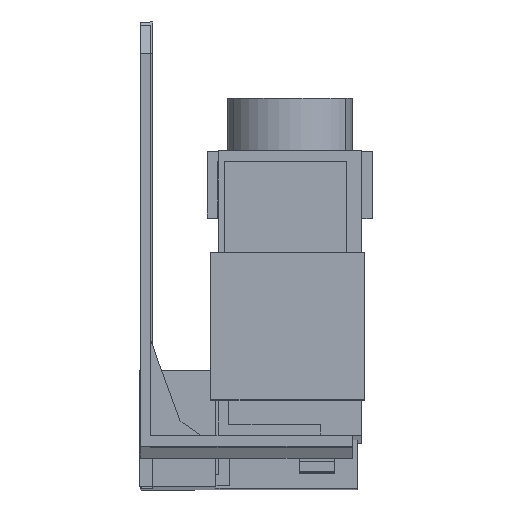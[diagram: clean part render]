
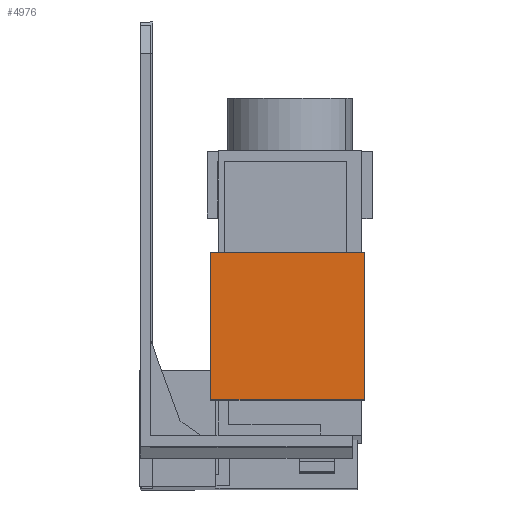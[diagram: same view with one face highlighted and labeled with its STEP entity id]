
A CAD part, front view. The second image highlights one B-rep face of the part: STEP entity #4976.
In plain terms, the highlighted planar face has unit normal (0, -1, 0.003).
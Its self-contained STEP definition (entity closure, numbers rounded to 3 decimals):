
#47 = EDGE_CURVE ( 'NONE', #7771, #7465, #6278, .T. ) ;
#123 = EDGE_CURVE ( 'NONE', #7767, #7778, #2061, .T. ) ;
#465 = EDGE_CURVE ( 'NONE', #7465, #7778, #2660, .T. ) ;
#478 = EDGE_CURVE ( 'NONE', #7767, #7771, #2682, .T. ) ;
#1028 = AXIS2_PLACEMENT_3D ( 'NONE', #6684, #6690, #6691 ) ;
#1523 = DIRECTION ( 'NONE',  ( 1., 0., 0. ) ) ;
#1558 = CARTESIAN_POINT ( 'NONE',  ( 9.3, -31.452, -19.316 ) ) ;
#1651 = CARTESIAN_POINT ( 'NONE',  ( 9.3, -31.509, -40.315 ) ) ;
#1652 = DIRECTION ( 'NONE',  ( 1., 0., 0. ) ) ;
#2061 = LINE ( 'NONE', #1651, #2062 ) ;
#2062 = VECTOR ( 'NONE', #1652, 1000. ) ;
#2660 = LINE ( 'NONE', #3226, #2661 ) ;
#2661 = VECTOR ( 'NONE', #3227, 1000. ) ;
#2682 = LINE ( 'NONE', #3257, #2683 ) ;
#2683 = VECTOR ( 'NONE', #3258, 1000. ) ;
#3226 = CARTESIAN_POINT ( 'NONE',  ( 31.95, -31.452, -19.316 ) ) ;
#3227 = DIRECTION ( 'NONE',  ( 0., -0.003, -1. ) ) ;
#3257 = CARTESIAN_POINT ( 'NONE',  ( 10.05, -31.509, -40.315 ) ) ;
#3258 = DIRECTION ( 'NONE',  ( 0., 0.003, 1. ) ) ;
#4370 = PLANE ( 'NONE',  #1028 ) ;
#4976 = ADVANCED_FACE ( 'NONE', ( #6577 ), #4370, .T. ) ;
#5718 = ORIENTED_EDGE ( 'NONE', *, *, #47, .F. ) ;
#5719 = ORIENTED_EDGE ( 'NONE', *, *, #478, .F. ) ;
#5720 = ORIENTED_EDGE ( 'NONE', *, *, #123, .T. ) ;
#5721 = ORIENTED_EDGE ( 'NONE', *, *, #465, .F. ) ;
#6201 = EDGE_LOOP ( 'NONE', ( #5718, #5719, #5720, #5721 ) ) ;
#6278 = LINE ( 'NONE', #1558, #6294 ) ;
#6294 = VECTOR ( 'NONE', #1523, 1000. ) ;
#6577 = FACE_OUTER_BOUND ( 'NONE', #6201, .T. ) ;
#6684 = CARTESIAN_POINT ( 'NONE',  ( 9.3, -31.509, -40.315 ) ) ;
#6690 = DIRECTION ( 'NONE',  ( 0., -1., 0.003 ) ) ;
#6691 = DIRECTION ( 'NONE',  ( -1., 0., 0. ) ) ;
#7007 = CARTESIAN_POINT ( 'NONE',  ( 31.95, -31.452, -19.316 ) ) ;
#7309 = CARTESIAN_POINT ( 'NONE',  ( 10.05, -31.509, -40.315 ) ) ;
#7313 = CARTESIAN_POINT ( 'NONE',  ( 10.05, -31.452, -19.316 ) ) ;
#7320 = CARTESIAN_POINT ( 'NONE',  ( 31.95, -31.509, -40.315 ) ) ;
#7465 = VERTEX_POINT ( 'NONE', #7007 ) ;
#7767 = VERTEX_POINT ( 'NONE', #7309 ) ;
#7771 = VERTEX_POINT ( 'NONE', #7313 ) ;
#7778 = VERTEX_POINT ( 'NONE', #7320 ) ;
